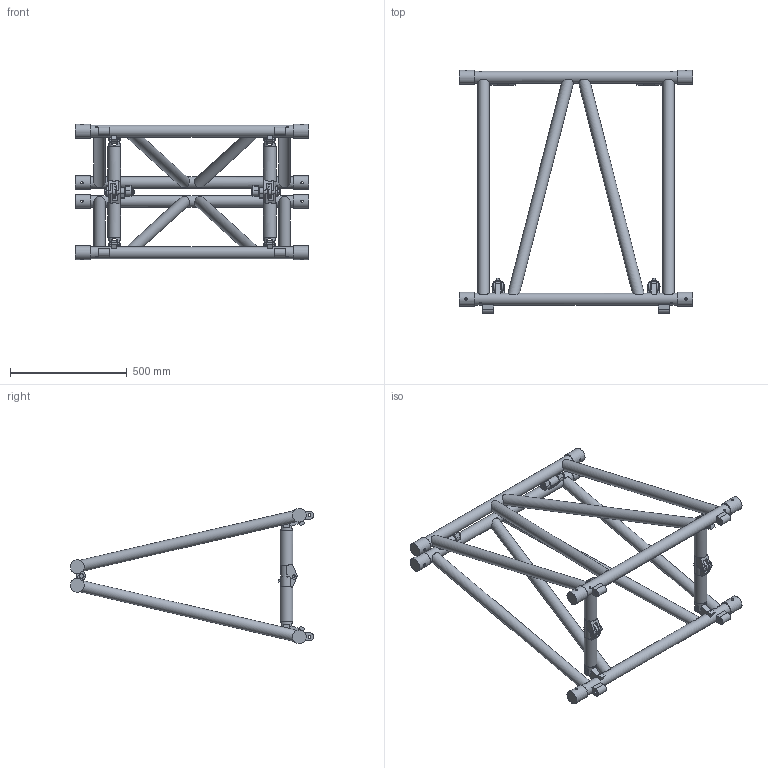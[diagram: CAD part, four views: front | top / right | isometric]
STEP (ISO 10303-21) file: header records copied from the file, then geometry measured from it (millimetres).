
FILE_DESCRIPTION(/* description */ (''),/* implementation_level */ '2;1');
FILE_NAME(/* name */ 'M:\Symbolen_NIEUW\STP\100-er truss\S100F\S100F-L100_111110031.stp',/* time_stamp */ '2017-11-30T15:22:13+01:00',/* author */ ('Kees'),/* organization */ (''),/* preprocessor_version */ 'ST-DEVELOPER v16.13',/* originating_system */ 'Autodesk Inventor 2018',/* authorisation */ '');
FILE_SCHEMA (('AUTOMOTIVE_DESIGN { 1 0 10303 214 3 1 1 }'));
Length unit declared in the file: millimetre
Products named in the file (1): 260009992
Bounding box: 1000 x 1040.61 x 578.8 mm (x, y, z)
Volume: 24692856.1 mm3; surface area: 2153026.4 mm2
Topology: 8 solids, 8 shells, 576 faces, 1484 edges, 970 vertices
Faces by surface type: plane 384, cylinder 154, cone 38
Full cylindrical faces by diameter (mm): 10 x8, 12 x12, 12.5 x10, 12.8 x8, 13 x12, 17.4 x4, 24 x4, 48.3 x8, 50 x8, 54 x4, 58.8 x8
Entity records: 19223 total; most frequent: CARTESIAN_POINT 4979, DIRECTION 2796, ORIENTED_EDGE 2708, EDGE_CURVE 1354, AXIS2_PLACEMENT_3D 1025, VERTEX_POINT 952, EDGE_LOOP 826, LINE 746
